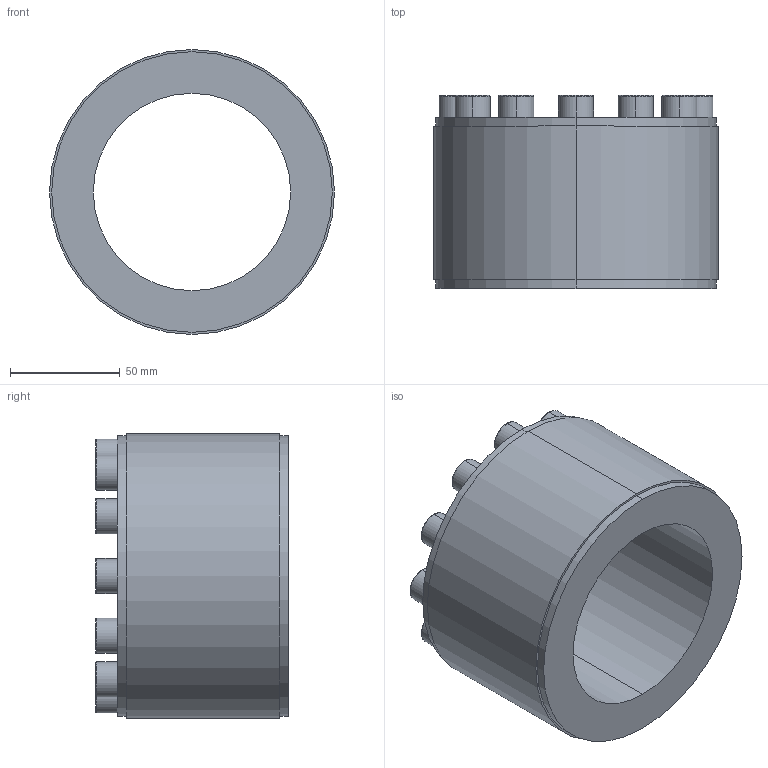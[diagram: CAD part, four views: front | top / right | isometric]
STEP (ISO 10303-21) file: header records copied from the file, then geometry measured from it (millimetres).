
FILE_DESCRIPTION (( 'STEP AP203' ), '1' );
FILE_NAME ('PL-D1 90-130.STEP', '2021-10-23T00:17:10', ( '' ), ( '' ), 'SwSTEP 2.0', 'SolidWorks 2018', '' );
FILE_SCHEMA (( 'CONFIG_CONTROL_DESIGN' ));
Length unit declared in the file: millimetre
Products named in the file (1): PL-D1 90-130
Bounding box: 130 x 88 x 130 mm (x, y, z)
Volume: 556625.2 mm3; surface area: 75246.3 mm2
Topology: 1 solids, 1 shells, 156 faces, 360 edges, 232 vertices
Faces by surface type: plane 100, cylinder 32, torus 24
Entity records: 4485 total; most frequent: DIRECTION 786, CARTESIAN_POINT 749, ORIENTED_EDGE 720, EDGE_CURVE 360, AXIS2_PLACEMENT_3D 269, VECTOR 248, LINE 248, VERTEX_POINT 232
